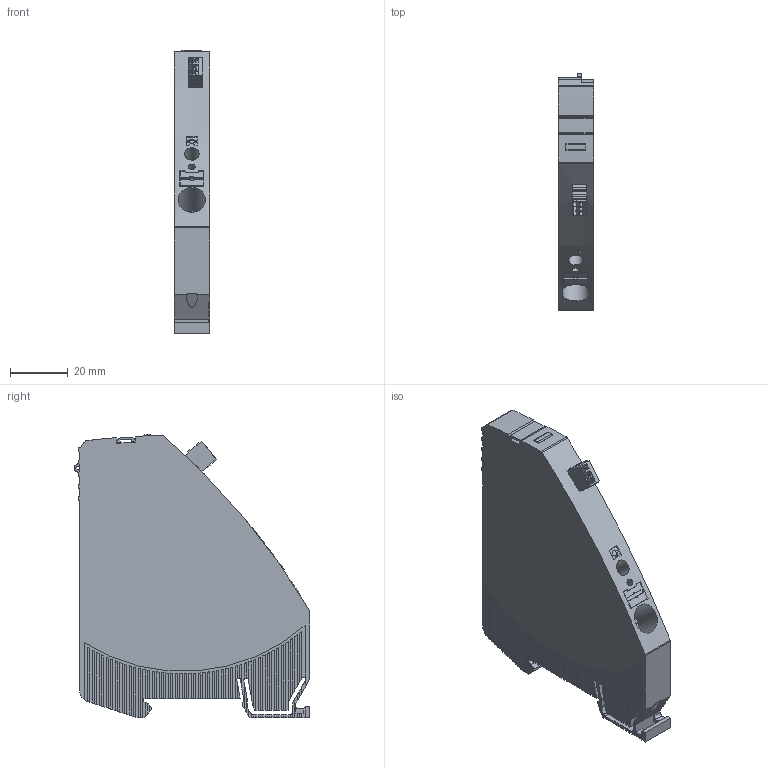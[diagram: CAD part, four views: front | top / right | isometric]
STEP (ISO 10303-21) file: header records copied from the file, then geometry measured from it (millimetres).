
FILE_DESCRIPTION( ( 'STEP AP203' ), ' ' );
FILE_NAME( 'p:/temp/worker_970/4472_3780/app_42_02016062010471224702779192d056f_000000_00_00_000000/format_1/DF2100.stp', '2016-06-20T08:47:15', ( '' ), ( '' ), ' ', 'PARTsolutions', ' ' );
FILE_SCHEMA( ( 'CONFIG_CONTROL_DESIGN' ) );
Length unit declared in the file: millimetre
Products named in the file (1): _DF2100
Bounding box: 12.4 x 81.9 x 98.35 mm (x, y, z)
Volume: 71867.2 mm3; surface area: 19993.8 mm2
Topology: 1 solids, 1 shells, 831 faces, 2450 edges, 1632 vertices
Faces by surface type: plane 654, cylinder 177
Full cylindrical faces by diameter (mm): 1.3 x1, 2.3 x1
Entity records: 27687 total; most frequent: CARTESIAN_POINT 5097, ORIENTED_EDGE 4894, DIRECTION 4487, EDGE_CURVE 2447, LINE 2053, VECTOR 2053, VERTEX_POINT 1631, AXIS2_PLACEMENT_3D 1217
